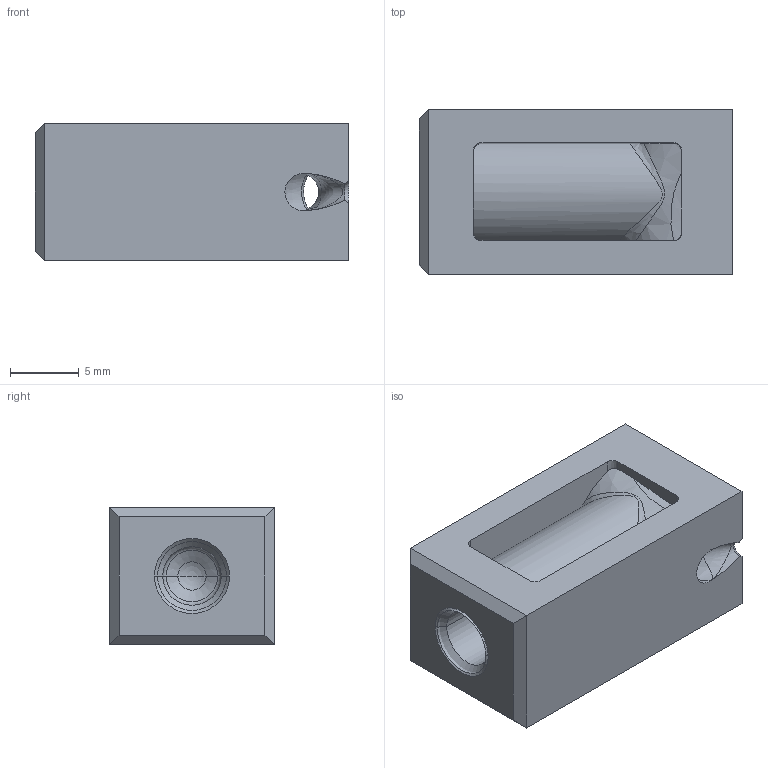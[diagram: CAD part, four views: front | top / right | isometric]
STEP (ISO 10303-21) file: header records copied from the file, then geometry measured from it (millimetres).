
FILE_DESCRIPTION((''),'2;1');
FILE_NAME('TGS12-12-S1','2004-03-24T',('tmeister'),(''),'PRO/ENGINEER BY PARAMETRIC TECHNOLOGY CORPORATION, 2002270','PRO/ENGINEER BY PARAMETRIC TECHNOLOGY CORPORATION, 2002270','');
FILE_SCHEMA(('CONFIG_CONTROL_DESIGN'));
Length unit declared in the file: millimetre
Products named in the file (1): TGS12-12-S1
Bounding box: 22.8 x 12 x 10 mm (x, y, z)
Volume: 2073.9 mm3; surface area: 1914.8 mm2
Topology: 1 solids, 2 shells, 64 faces, 232 edges, 169 vertices
Faces by surface type: plane 22, bspline 14, cone 13, cylinder 10, sphere 3, torus 2
Entity records: 4799 total; most frequent: CARTESIAN_POINT 3137, ORIENTED_EDGE 314, DIRECTION 271, EDGE_CURVE 159, VERTEX_POINT 100, B_SPLINE_CURVE_WITH_KNOTS 98, AXIS2_PLACEMENT_3D 91, VECTOR 89
